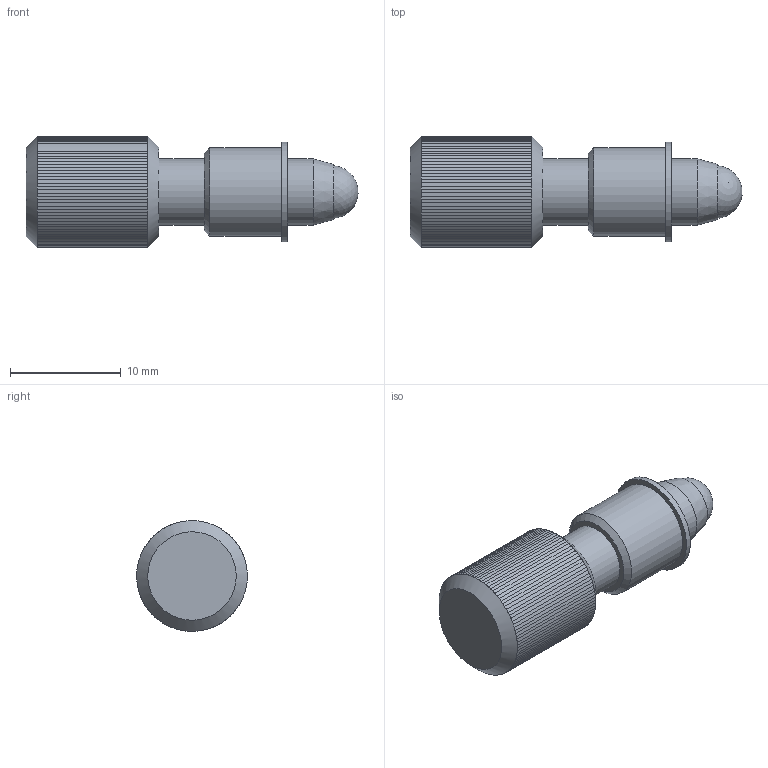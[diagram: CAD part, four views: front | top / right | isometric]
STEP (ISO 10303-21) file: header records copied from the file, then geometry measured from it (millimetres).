
FILE_DESCRIPTION(/* description */ (''),/* implementation_level */ '2;1');
FILE_NAME(/* name */ 'U:\KONSTRUKTORIAI\DOKUMENTACIJA\9\9S67\9S67\step\9S67.STEP',/* time_stamp */ '2016-12-23T08:11:57+02:00',/* author */ ('dsgn31'),/* organization */ (''),/* preprocessor_version */ 'ST-DEVELOPER v15.2',/* originating_system */ 'Autodesk Inventor 2014',/* authorisation */ '');
FILE_SCHEMA (('AUTOMOTIVE_DESIGN { 1 0 10303 214 3 1 1 }'));
Length unit declared in the file: inch
Products named in the file (1): 9S67_Shrinkwrap_1
Bounding box: 29.98 x 10 x 10 mm (x, y, z)
Volume: 1544.6 mm3; surface area: 908.8 mm2
Topology: 1 solids, 1 shells, 327 faces, 755 edges, 434 vertices
Faces by surface type: plane 318, cone 4, cylinder 4, sphere 1
Full cylindrical faces by diameter (mm): 6 x2, 8 x1, 9 x1
Entity records: 9283 total; most frequent: DIRECTION 1618, CARTESIAN_POINT 1498, ORIENTED_EDGE 1482, EDGE_CURVE 741, AXIS2_PLACEMENT_3D 549, LINE 520, VECTOR 520, VERTEX_POINT 429
